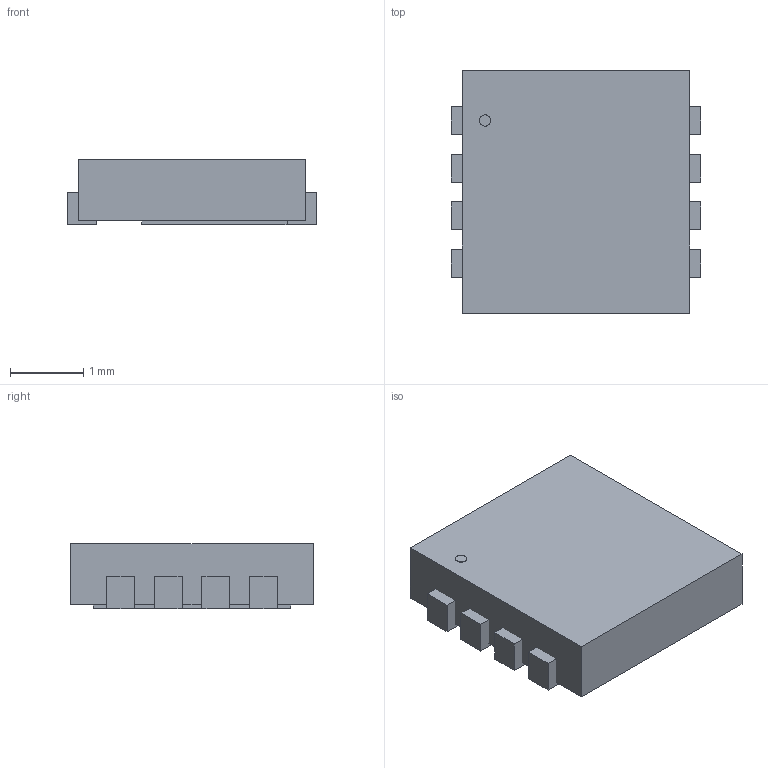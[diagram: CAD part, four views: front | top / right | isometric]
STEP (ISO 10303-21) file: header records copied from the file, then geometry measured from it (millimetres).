
FILE_DESCRIPTION(('STEP AP214'),'1');
FILE_NAME('HSMT8_3P3X3P3_ROM','2026-05-12T12:04:18',(''),(''),'','','');
FILE_SCHEMA(('AUTOMOTIVE_DESIGN'));
Length unit declared in the file: millimetre
Products named in the file (1): product
Bounding box: 3.4 x 3.3 x 0.89 mm (x, y, z)
Volume: 9.4 mm3; surface area: 50.4 mm2
Topology: 11 solids, 11 shells, 63 faces, 123 edges, 82 vertices
Faces by surface type: plane 62, cylinder 1
Full cylindrical faces by diameter (mm): 0.155 x1
Entity records: 1669 total; most frequent: DIRECTION 254, ORIENTED_EDGE 244, CARTESIAN_POINT 149, EDGE_CURVE 122, LINE 120, VECTOR 120, VERTEX_POINT 82, AXIS2_PLACEMENT_3D 67
